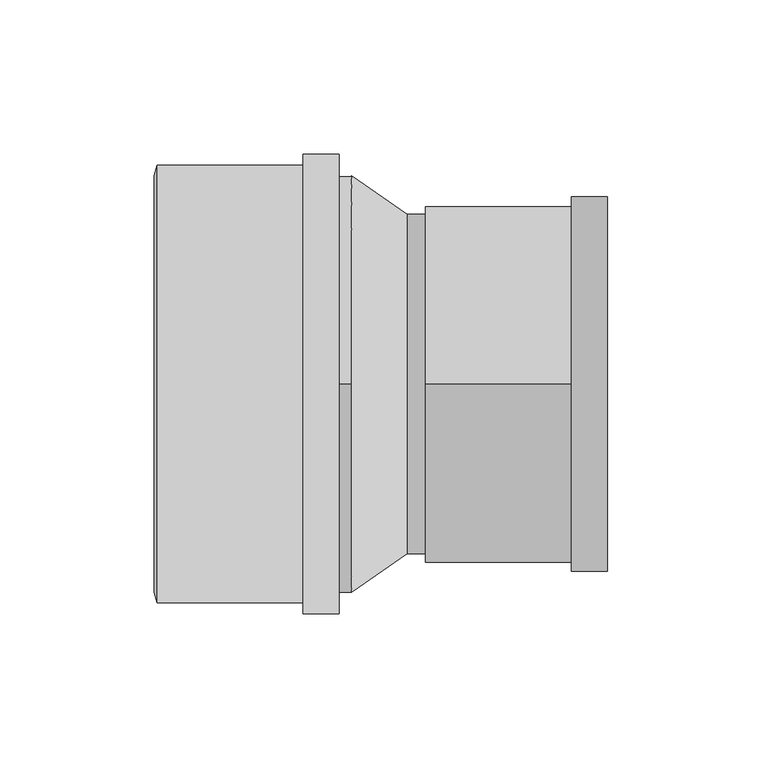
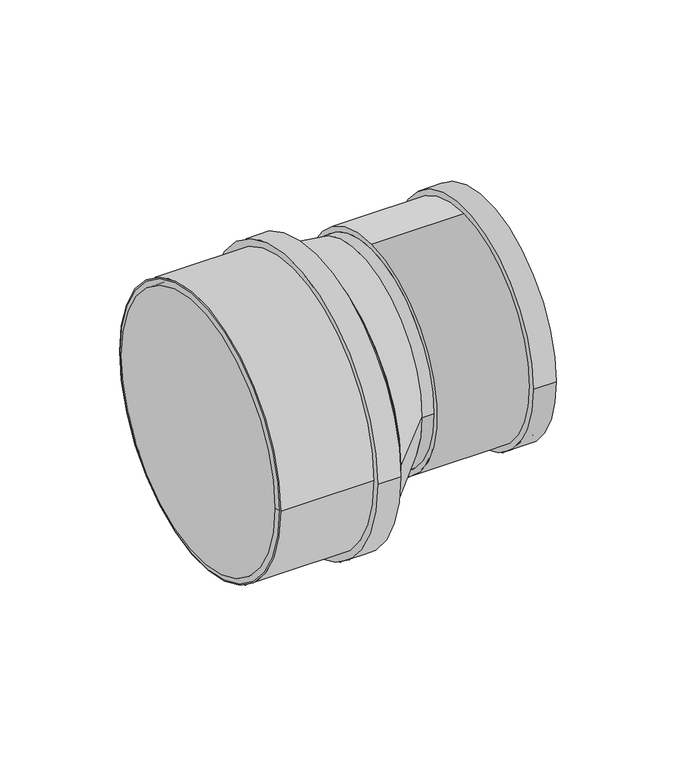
"""IFC4 building model written with IfcOpenShell, lengths in millimetres: pipe fitting geometry, Superdrain SKR-Reducer : Superdrain SKR-Reducer."""

from ifc_helpers import new_model, si_unit, point, frame, frame_2d, origin, origin_2d, place, context, project, spatial, polyline, circle_curve, trimmed, segment, composite_curve, outline, extrude, source, transform, mapped, element, save
from ifc_brep_helpers import plane_surface, revolved_surface, spline_surface, advanced_brep


def pipe_fitting_bcb41124(model_context):
    return source(origin(), model_context, "Body", "SolidModel", [
        extrude(outline(composite_curve([segment(trimmed(circle_curve(frame_2d((0.0, 0.1450234)), 70.875), [point((70.875, 0.1450234))], [point((-70.875, 0.1450234))], False, "CARTESIAN"), True, "CONTINUOUS"), segment(trimmed(circle_curve(frame_2d((0.0, 0.1450234)), 70.875), [point((-70.875, 0.1450234))], [point((70.875, 0.1450234))], False, "CARTESIAN"), True, "CONTINUOUS")], self_intersect=False), holes=[composite_curve([segment(trimmed(circle_curve(frame_2d((0.0, 0.1450234)), 67.5), [point((67.5, 0.1450234))], [point((-67.5, 0.1450234))], True, "CARTESIAN"), True, "CONTINUOUS"), segment(trimmed(circle_curve(frame_2d((0.0, 0.1450234)), 67.5), [point((-67.5, 0.1450234))], [point((67.5, 0.1450234))], True, "CARTESIAN"), True, "CONTINUOUS")], self_intersect=False)]), frame((-63.0, 0.0, 0.0), z_axis=(1.0, 0.0, 0.0), x_axis=(0.0, 1.0, 0.0)), (0.0, 0.0, 1.0), 59.0),
        extrude(outline(composite_curve([segment(trimmed(circle_curve(frame_2d((0.0, 0.1450234)), 74.41875), [point((74.41875, 0.1450234))], [point((-74.41875, 0.1450234))], False, "CARTESIAN"), True, "CONTINUOUS"), segment(trimmed(circle_curve(frame_2d((0.0, 0.1450234)), 74.41875), [point((-74.41875, 0.1450234))], [point((74.41875, 0.1450234))], False, "CARTESIAN"), True, "CONTINUOUS")], self_intersect=False), holes=[composite_curve([segment(trimmed(circle_curve(frame_2d((0.0, 0.1450234)), 67.5), [point((67.5, 0.1450234))], [point((-67.5, 0.1450234))], True, "CARTESIAN"), True, "CONTINUOUS"), segment(trimmed(circle_curve(frame_2d((0.0, 0.1450234)), 67.5), [point((-67.5, 0.1450234))], [point((67.5, 0.1450234))], True, "CARTESIAN"), True, "CONTINUOUS")], self_intersect=False)]), frame((-15.8, 0.0, 0.0), z_axis=(1.0, 0.0, 0.0), x_axis=(0.0, 1.0, 0.0)), (0.0, 0.0, 1.0), 11.8),
        advanced_brep(
        [(-64.0, 67.5, 0.1450234), (-64.0, -67.5, 0.1450234), (-63.0, 70.875, 0.1450234), (-63.0, -70.875, 0.1450234)],
        [
            (0, 1, circle_curve(frame((-64.0, 0.0, 0.1450234), z_axis=(-1.0, 0.0, 0.0), x_axis=(0.0, 1.0000000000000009, 0.0)), 67.5)),
            (1, 0, circle_curve(frame((-64.0, 0.0, 0.1450234), z_axis=(-1.0, 0.0, 0.0), x_axis=(0.0, -1.0000000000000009, 0.0)), 67.5)),
            (2, 3, circle_curve(frame((-63.0, 0.0, 0.1450234), z_axis=(1.0, 0.0, 0.0), x_axis=(0.0, -1.0000000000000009, 0.0)), 70.875)),
            (3, 2, circle_curve(frame((-63.0, 0.0, 0.1450234), z_axis=(1.0, 0.0, 0.0), x_axis=(0.0, 1.0000000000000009, 0.0)), 70.875)),
            (3, 1),
            (0, 2),
        ],
        [
            plane_surface(frame((-64.0, 0.0, 0.1450234), z_axis=(-1.0, 0.0, 0.0), x_axis=(0.0, 0.0, -1.0))),
            plane_surface(frame((-63.0, 0.0, 0.1450234), z_axis=(1.0, 0.0, 0.0), x_axis=(0.0, 0.0, -1.0))),
            revolved_surface(polyline([(-64.0, 67.49999999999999, 0.1450234), (-63.0, 70.875, 0.1450234)]), (-84.0, 0.0, 0.1450234), (1.0000000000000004, 0.0, 0.0)),
            revolved_surface(polyline([(-64.0, -67.49999999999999, 0.1450234), (-63.0, -70.875, 0.1450234)]), (-84.0, 0.0, 0.1450234), (1.0000000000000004, 0.0, 0.0)),
        ],
        [
            (0, [[1, 2]]),
            (1, [[3, 4]]),
            (2, [[-4, 5, -1, 6]]),
            (3, [[-3, -6, -2, -5]]),
        ],
    ),
        advanced_brep(
        [(18.0, -55.0, 12.5), (18.0, 55.0, 12.5), (0.0, -67.5, 0.0), (0.0, 67.5, 0.0)],
        [
            (0, 1, circle_curve(frame((18.0, 0.0, 12.5), z_axis=(1.0, 0.0, 0.0), x_axis=(0.0, 1.0, 0.0)), 55.0)),
            (1, 0, circle_curve(frame((18.0, 0.0, 12.5), z_axis=(1.0, 0.0, 0.0), x_axis=(0.0, 1.0, 0.0)), 55.0)),
            (2, 3, circle_curve(frame((0.0, 0.0, 0.0), z_axis=(-1.0, 0.0, 0.0), x_axis=(0.0, 1.0, 0.0)), 67.5)),
            (3, 2, circle_curve(frame((0.0, 0.0, 0.0), z_axis=(-1.0, 0.0, 0.0), x_axis=(0.0, 1.0, 0.0)), 67.5)),
            (3, 1),
            (0, 2),
        ],
        [
            plane_surface(frame((18.0, 0.0, 12.5), z_axis=(1.0, 0.0, 0.0), x_axis=(0.0, 0.0, -1.0))),
            plane_surface(frame((0.0, 0.0, 0.0), z_axis=(-1.0, 0.0, 0.0), x_axis=(0.0, 0.0, -1.0))),
            spline_surface(2, 1, [[(0.0, -67.5, 0.0), (18.0, -55.0, 12.5)], [(0.0, -67.5, -67.5), (18.0, -55.0, -42.5)], [(0.0, 0.0, -67.5), (18.0, 0.0, -42.5)], [(0.0, 67.5, -67.5), (18.0, 55.0, -42.5)], [(0.0, 67.5, 0.0), (18.0, 55.0, 12.5)]], [3, 2, 3], [2, 2], [0.0, 1.0, 2.0], [0.0, 1.0], weights=[[1.0, 1.0], [0.7071067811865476, 0.7071067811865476], [1.0, 1.0], [0.7071067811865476, 0.7071067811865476], [1.0, 1.0]]),
            spline_surface(2, 1, [[(0.0, 67.5, 0.0), (18.0, 55.0, 12.5)], [(0.0, 67.5, 67.5), (18.0, 55.0, 67.5)], [(0.0, 0.0, 67.5), (18.0, 0.0, 67.5)], [(0.0, -67.5, 67.5), (18.0, -55.0, 67.5)], [(0.0, -67.5, 0.0), (18.0, -55.0, 12.5)]], [3, 2, 3], [2, 2], [0.0, 1.0, 2.0], [0.0, 1.0], weights=[[1.0, 1.0], [0.7071067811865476, 0.7071067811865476], [1.0, 1.0], [0.7071067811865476, 0.7071067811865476], [1.0, 1.0]]),
        ],
        [
            (0, [[1, 2]]),
            (1, [[3, 4]]),
            (2, [[-4, 5, -1, 6]]),
            (3, [[-3, -6, -2, -5]]),
        ],
    ),
        extrude(outline(composite_curve([segment(trimmed(circle_curve(frame_2d((0.0, 12.5)), 55.0), [point((-55.0, 12.5))], [point((55.0, 12.5))], False, "CARTESIAN"), True, "CONTINUOUS"), segment(trimmed(circle_curve(frame_2d((0.0, 12.5)), 55.0), [point((55.0, 12.5))], [point((-55.0, 12.5))], False, "CARTESIAN"), True, "CONTINUOUS")], self_intersect=False)), frame((18.0, 0.0, 0.0), z_axis=(1.0, 0.0, 0.0), x_axis=(0.0, 1.0, 0.0)), (0.0, 0.0, 1.0), 6.0),
        extrude(outline(composite_curve([segment(trimmed(circle_curve(frame_2d((0.0, 12.5)), 60.6375), [point((-60.6375, 12.5))], [point((60.6375, 12.5))], False, "CARTESIAN"), True, "CONTINUOUS"), segment(trimmed(circle_curve(frame_2d((0.0, 12.5)), 60.6375), [point((60.6375, 12.5))], [point((-60.6375, 12.5))], False, "CARTESIAN"), True, "CONTINUOUS")], self_intersect=False), holes=[composite_curve([segment(trimmed(circle_curve(frame_2d((0.0, 12.5)), 55.0), [point((55.0, 12.5))], [point((-55.0, 12.5))], True, "CARTESIAN"), True, "CONTINUOUS"), segment(trimmed(circle_curve(frame_2d((0.0, 12.5)), 55.0), [point((-55.0, 12.5))], [point((55.0, 12.5))], True, "CARTESIAN"), True, "CONTINUOUS")], self_intersect=False)]), frame((71.2, 0.0, 0.0), z_axis=(1.0, 0.0, 0.0), x_axis=(0.0, 1.0, 0.0)), (0.0, 0.0, 1.0), 11.8),
        extrude(outline(composite_curve([segment(trimmed(circle_curve(frame_2d((0.0, 12.5)), 57.75), [point((0.0, 70.25))], [point((0.0, -45.25))], False, "CARTESIAN"), True, "CONTINUOUS"), segment(trimmed(circle_curve(frame_2d((0.0, 12.5)), 57.75), [point((0.0, -45.25))], [point((0.0, 70.25))], False, "CARTESIAN"), True, "CONTINUOUS")], self_intersect=False), holes=[composite_curve([segment(trimmed(circle_curve(frame_2d((0.0, 12.5)), 55.0), [point((55.0, 12.5))], [point((-55.0, 12.5))], True, "CARTESIAN"), True, "CONTINUOUS"), segment(trimmed(circle_curve(frame_2d((0.0, 12.5)), 55.0), [point((-55.0, 12.5))], [point((55.0, 12.5))], True, "CARTESIAN"), True, "CONTINUOUS")], self_intersect=False)]), frame((24.0, 0.0, 0.0), z_axis=(1.0, 0.0, 0.0), x_axis=(0.0, 1.0, 0.0)), (0.0, 0.0, 1.0), 59.0),
        extrude(outline(composite_curve([segment(trimmed(circle_curve(origin_2d(), 67.5), [point((0.0, 67.5))], [point((0.0, -67.5))], False, "CARTESIAN"), True, "CONTINUOUS"), segment(trimmed(circle_curve(origin_2d(), 67.5), [point((0.0, -67.5))], [point((0.0, 67.5))], False, "CARTESIAN"), True, "CONTINUOUS")], self_intersect=False)), frame((-63.0, 0.0, 0.0), z_axis=(1.0, 0.0, 0.0), x_axis=(0.0, 1.0, 0.0)), (0.0, 0.0, 1.0), 63.0),
    ])


if __name__ == "__main__":
    model = new_model("IFC4")
    model_context = context("Model", 3, world=origin())
    ifc_project = project(units=[si_unit("LENGTHUNIT", "METRE", prefix="MILLI")], contexts=[model_context])
    site = spatial("IfcSite", under=ifc_project)
    building = spatial("IfcBuilding", under=site)
    placement = place(None, origin())
    pipe_fitting_shape = pipe_fitting_bcb41124(model_context)
    element("IfcPipeFitting", 1, ObjectType="Superdrain SKR-Reducer : Superdrain SKR-Reducer", at=placement, inside=building, context=model_context, shape_type="MappedRepresentation", body=[
        mapped(pipe_fitting_shape, transform((0.0, 0.0, 0.0), x_axis=(1.0, 0.0, 0.0), y_axis=(0.0, 1.0, 0.0), z_axis=(0.0, 0.0, 1.0))),
    ])
    save(model, "model.ifc")
